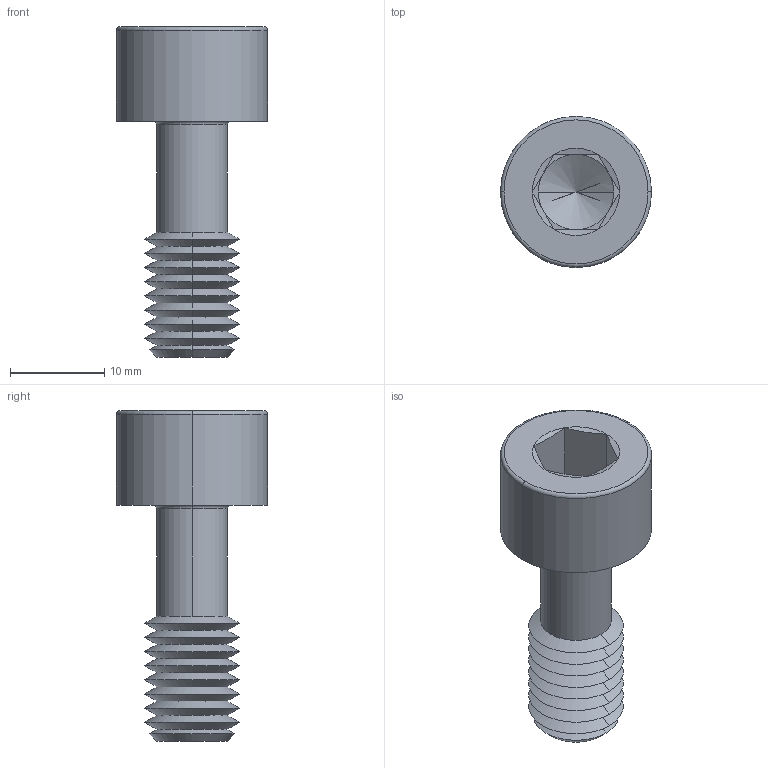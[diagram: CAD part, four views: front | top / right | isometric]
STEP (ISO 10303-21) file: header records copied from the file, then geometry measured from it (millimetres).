
FILE_DESCRIPTION (( 'STEP AP203' ), '1' );
FILE_NAME ('P0154.100-025-BL.step', '2024-06-17T11:33:36', ( '' ), ( '' ), 'SwSTEP 2.0', 'SolidWorks 2019', '' );
FILE_SCHEMA (( 'CONFIG_CONTROL_DESIGN' ));
Length unit declared in the file: millimetre
Products named in the file (1): P0154.100-025-BL
Bounding box: 16 x 16 x 35 mm (x, y, z)
Volume: 2831.2 mm3; surface area: 2103.7 mm2
Topology: 1 solids, 1 shells, 67 faces, 136 edges, 71 vertices
Faces by surface type: cone 44, plane 15, torus 4, cylinder 4
Entity records: 1791 total; most frequent: DIRECTION 332, CARTESIAN_POINT 303, ORIENTED_EDGE 268, AXIS2_PLACEMENT_3D 136, EDGE_CURVE 134, VERTEX_POINT 71, EDGE_LOOP 69, CIRCLE 68
